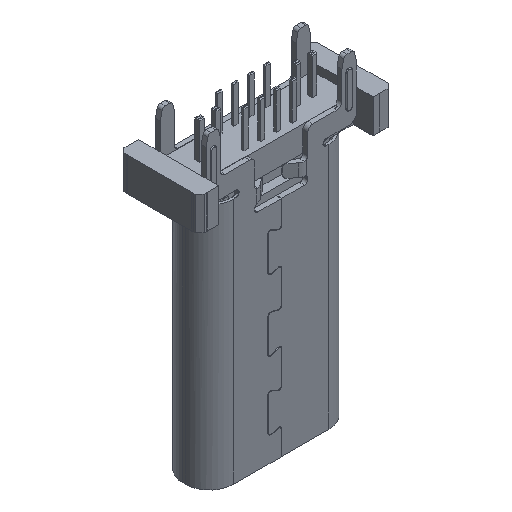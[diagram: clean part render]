
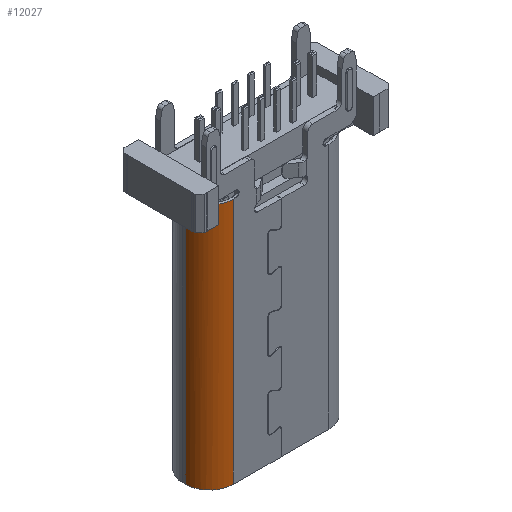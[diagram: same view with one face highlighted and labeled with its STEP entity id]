
A CAD part, isometric view. The second image highlights one B-rep face of the part: STEP entity #12027.
In plain terms, the highlighted cylindrical face has radius 1.5 mm (diameter 3 mm), a partial arc.
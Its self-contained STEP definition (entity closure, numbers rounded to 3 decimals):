
#1564=CARTESIAN_POINT('',(2.726,-0.07,
-19.5));
#1565=DIRECTION('',(0.,0.,-1.));
#1566=DIRECTION('',(-0.002,-1.,0.));
#1567=AXIS2_PLACEMENT_3D('',#1564,#1565,#1566);
#2255=DIRECTION('',(0.,0.,-1.));
#2256=VECTOR('',#2255,8.);
#2257=CARTESIAN_POINT('',(2.722,-1.57,
-10.5));
#2258=LINE('',#2257,#2256);
#2259=DIRECTION('',(0.,0.,-1.));
#2260=VECTOR('',#2259,1.);
#2261=CARTESIAN_POINT('',(2.722,-1.57,
-18.5));
#2262=LINE('',#2261,#2260);
#2263=DIRECTION('',(0.,0.,-1.));
#2264=VECTOR('',#2263,6.4);
#2265=CARTESIAN_POINT('',(2.722,-1.57,
-4.1));
#2266=LINE('',#2265,#2264);
#2267=DIRECTION('',(0.,0.,-1.));
#2268=VECTOR('',#2267,8.);
#2269=CARTESIAN_POINT('',(1.226,-0.067,
-10.5));
#2270=LINE('',#2269,#2268);
#2271=DIRECTION('',(0.,0.,-1.));
#2272=VECTOR('',#2271,1.);
#2273=CARTESIAN_POINT('',(1.226,-0.067,
-18.5));
#2274=LINE('',#2273,#2272);
#2279=DIRECTION('',(0.,0.,-1.));
#2280=VECTOR('',#2279,6.4);
#2281=CARTESIAN_POINT('',(1.225,-0.067,
-4.1));
#2282=LINE('',#2281,#2280);
#4391=CARTESIAN_POINT('',(2.725,-0.07,
-4.1));
#4392=DIRECTION('',(0.,0.,-1.));
#4393=DIRECTION('',(-0.619,-0.785,0.));
#4394=AXIS2_PLACEMENT_3D('',#4391,#4392,#4393);
#5886=CARTESIAN_POINT('',(2.725,-0.07,
-4.1));
#5887=DIRECTION('',(0.,0.,-1.));
#5888=DIRECTION('',(-0.002,-1.,0.));
#5889=AXIS2_PLACEMENT_3D('',#5886,#5887,#5888);
#7902=CARTESIAN_POINT('',(1.797,-1.248,
-4.1));
#7904=VERTEX_POINT('',#7902);
#8378=CARTESIAN_POINT('',(2.722,-1.57,
-4.1));
#8379=VERTEX_POINT('',#8378);
#8394=CARTESIAN_POINT('',(1.225,-0.067,
-4.1));
#8395=VERTEX_POINT('',#8394);
#8819=CARTESIAN_POINT('',(2.722,-1.57,
-10.5));
#8820=VERTEX_POINT('',#8819);
#8823=CARTESIAN_POINT('',(1.226,-0.067,
-10.5));
#8824=VERTEX_POINT('',#8823);
#9173=CARTESIAN_POINT('',(2.722,-1.57,
-19.5));
#9174=CARTESIAN_POINT('',(1.226,-0.067,
-19.5));
#9175=VERTEX_POINT('',#9173);
#9176=VERTEX_POINT('',#9174);
#9195=CARTESIAN_POINT('',(2.722,-1.57,
-18.5));
#9196=VERTEX_POINT('',#9195);
#9197=CARTESIAN_POINT('',(1.226,-0.067,
-18.5));
#9198=VERTEX_POINT('',#9197);
#12006=CARTESIAN_POINT('',(2.726,-0.07,
-18.66));
#12007=DIRECTION('',(0.,0.,1.));
#12008=DIRECTION('',(-1.,0.002,0.));
#12009=AXIS2_PLACEMENT_3D('',#12006,#12007,#12008);
#12010=CYLINDRICAL_SURFACE('',#12009,1.5);
#12011=ORIENTED_EDGE('',*,*,#11637,.T.);
#12012=ORIENTED_EDGE('',*,*,#11635,.T.);
#12013=ORIENTED_EDGE('',*,*,#11277,.T.);
#12015=ORIENTED_EDGE('',*,*,#12014,.F.);
#12017=ORIENTED_EDGE('',*,*,#12016,.F.);
#12019=ORIENTED_EDGE('',*,*,#12018,.F.);
#12021=ORIENTED_EDGE('',*,*,#12020,.F.);
#12023=ORIENTED_EDGE('',*,*,#12022,.F.);
#12024=ORIENTED_EDGE('',*,*,#11639,.T.);
#12025=EDGE_LOOP('',(#12011,#12012,#12013,#12015,#12017,#12019,#12021,#12023,
#12024));
#12026=FACE_OUTER_BOUND('',#12025,.F.);
#1568=CIRCLE('',#1567,1.5);
#4395=CIRCLE('',#4394,1.5);
#5890=CIRCLE('',#5889,1.5);
#11277=EDGE_CURVE('',#9175,#9176,#1568,.T.);
#11635=EDGE_CURVE('',#9196,#9175,#2262,.T.);
#11637=EDGE_CURVE('',#8820,#9196,#2258,.T.);
#11639=EDGE_CURVE('',#8379,#8820,#2266,.T.);
#12014=EDGE_CURVE('',#9198,#9176,#2274,.T.);
#12016=EDGE_CURVE('',#8824,#9198,#2270,.T.);
#12018=EDGE_CURVE('',#8395,#8824,#2282,.T.);
#12020=EDGE_CURVE('',#7904,#8395,#4395,.T.);
#12022=EDGE_CURVE('',#8379,#7904,#5890,.T.);
#12027=ADVANCED_FACE('',(#12026),#12010,.T.);
